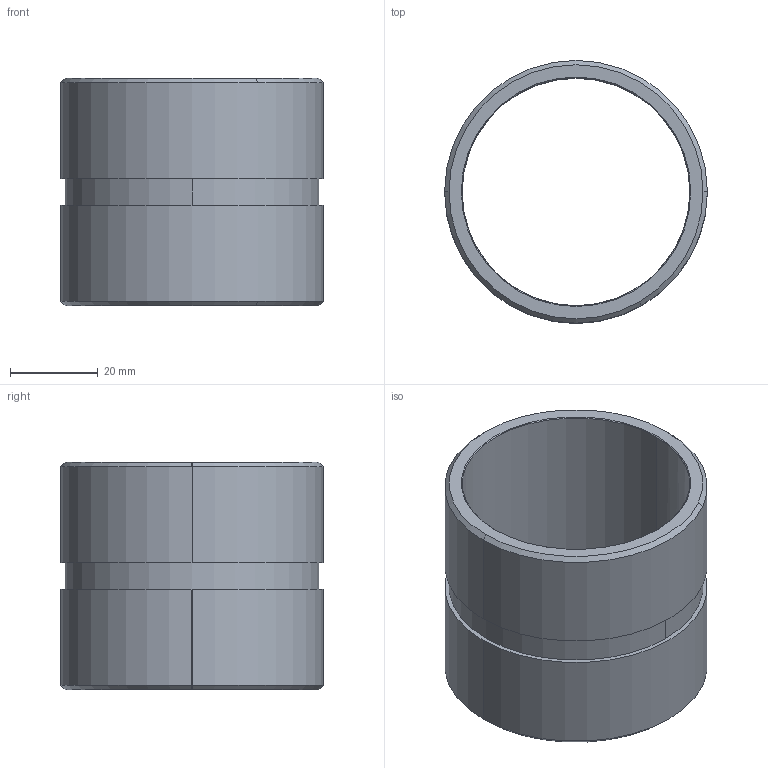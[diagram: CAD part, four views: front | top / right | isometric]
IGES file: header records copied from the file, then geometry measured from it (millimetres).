
Start section: START RECORD GO HERE.
Global section: file name: C104-02-055-050.igs; native system: DASSAULT SYSTEMES CATIA V5 R20 - www.3ds.com; preprocessor: CATIA Version 5 Release 20 ; author: Utente; organization: NB04-ASUS; date: 20200422.153533; units: millimetre
Bounding box: 60 x 60 x 52 mm (x, y, z)
Surface area: 19775.5 mm2 (no closed solid volume)
Topology: 0 solids, 0 shells, 24 faces, 104 edges, 104 vertices
Faces by surface type: revolution 20, plane 4
